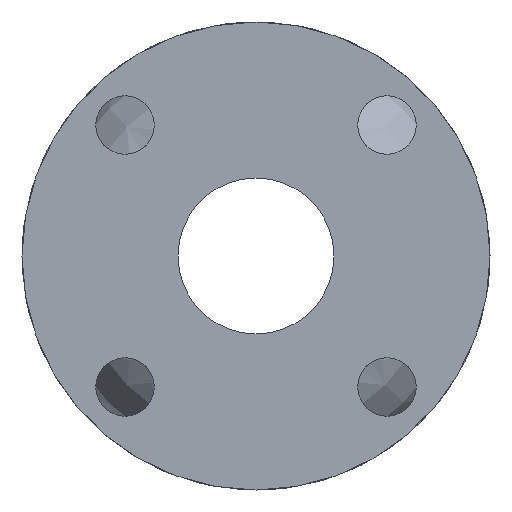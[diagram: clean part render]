
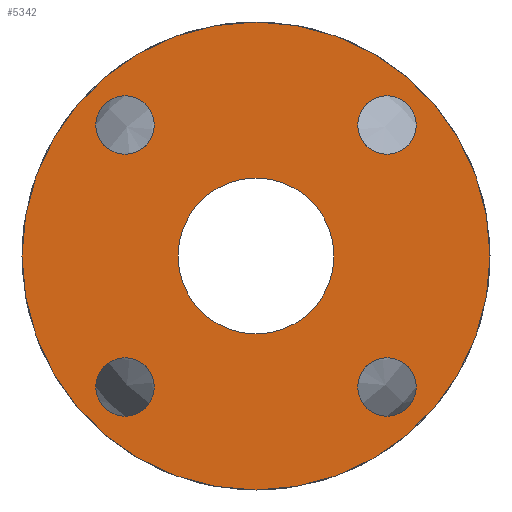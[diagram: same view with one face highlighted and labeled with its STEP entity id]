
A CAD part, left-side view. The second image highlights one B-rep face of the part: STEP entity #5342.
In plain terms, the highlighted planar face has unit normal (-1, 0, 0).
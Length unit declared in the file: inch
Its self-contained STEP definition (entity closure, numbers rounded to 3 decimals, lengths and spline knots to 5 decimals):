
#5207=CARTESIAN_POINT('',(-5.,-1.30438,-1.67938));
#5208=VERTEX_POINT('',#5207);
#5209=CARTESIAN_POINT('',(-5.,-1.67938,-1.67938));
#5210=DIRECTION('',(1.0,0.0,0.0));
#5211=DIRECTION('',(0.0,-1.0,0.0));
#5212=AXIS2_PLACEMENT_3D('',#5209,#5210,#5211);
#5213=CIRCLE('',#5212,0.375);
#5214=EDGE_CURVE('',#5208,#5208,#5213,.T.);
#5235=CARTESIAN_POINT('',(-5.,-1.67938,1.30438));
#5236=VERTEX_POINT('',#5235);
#5237=CARTESIAN_POINT('',(-5.,-1.67938,1.67938));
#5238=DIRECTION('',(1.0,0.0,0.0));
#5239=DIRECTION('',(0.0,0.0,1.0));
#5240=AXIS2_PLACEMENT_3D('',#5237,#5238,#5239);
#5241=CIRCLE('',#5240,0.375);
#5242=EDGE_CURVE('',#5236,#5236,#5241,.T.);
#5263=CARTESIAN_POINT('',(-5.,1.30438,1.67938));
#5264=VERTEX_POINT('',#5263);
#5265=CARTESIAN_POINT('',(-5.,1.67938,1.67938));
#5266=DIRECTION('',(1.0,0.0,0.0));
#5267=DIRECTION('',(0.0,1.0,0.0));
#5268=AXIS2_PLACEMENT_3D('',#5265,#5266,#5267);
#5269=CIRCLE('',#5268,0.375);
#5270=EDGE_CURVE('',#5264,#5264,#5269,.T.);
#5291=CARTESIAN_POINT('',(-5.,1.67938,-1.30438));
#5292=VERTEX_POINT('',#5291);
#5293=CARTESIAN_POINT('',(-5.,1.67938,-1.67938));
#5294=DIRECTION('',(1.0,0.0,0.0));
#5295=DIRECTION('',(0.0,0.0,-1.0));
#5296=AXIS2_PLACEMENT_3D('',#5293,#5294,#5295);
#5297=CIRCLE('',#5296,0.375);
#5298=EDGE_CURVE('',#5292,#5292,#5297,.T.);
#5303=CARTESIAN_POINT('',(-5.,2.9375,0.0));
#5304=DIRECTION('',(-1.0,0.0,0.0));
#5305=DIRECTION('',(0.0,0.0,1.0));
#5306=AXIS2_PLACEMENT_3D('',#5303,#5304,#5305);
#5307=PLANE('',#5306);
#5308=CARTESIAN_POINT('',(-5.,3.0,0.0));
#5309=VERTEX_POINT('',#5308);
#5310=CARTESIAN_POINT('',(-5.,0.0,0.0));
#5311=DIRECTION('',(1.0,0.0,0.0));
#5312=DIRECTION('',(0.0,1.0,0.0));
#5313=AXIS2_PLACEMENT_3D('',#5310,#5311,#5312);
#5314=CIRCLE('',#5313,3.0);
#5315=EDGE_CURVE('',#5309,#5309,#5314,.T.);
#5316=ORIENTED_EDGE('',*,*,#5315,.F.);
#5317=EDGE_LOOP('',(#5316));
#5318=FACE_OUTER_BOUND('',#5317,.T.);
#5319=ORIENTED_EDGE('',*,*,#5214,.T.);
#5320=EDGE_LOOP('',(#5319));
#5321=FACE_BOUND('',#5320,.T.);
#5322=ORIENTED_EDGE('',*,*,#5242,.T.);
#5323=EDGE_LOOP('',(#5322));
#5324=FACE_BOUND('',#5323,.T.);
#5325=ORIENTED_EDGE('',*,*,#5270,.T.);
#5326=EDGE_LOOP('',(#5325));
#5327=FACE_BOUND('',#5326,.T.);
#5328=ORIENTED_EDGE('',*,*,#5298,.T.);
#5329=EDGE_LOOP('',(#5328));
#5330=FACE_BOUND('',#5329,.T.);
#5331=CARTESIAN_POINT('',(-5.,1.,0.0));
#5332=VERTEX_POINT('',#5331);
#5333=CARTESIAN_POINT('',(-5.,0.0,0.0));
#5334=DIRECTION('',(1.0,0.0,0.0));
#5335=DIRECTION('',(0.0,1.0,0.0));
#5336=AXIS2_PLACEMENT_3D('',#5333,#5334,#5335);
#5337=CIRCLE('',#5336,1.);
#5338=EDGE_CURVE('',#5332,#5332,#5337,.T.);
#5339=ORIENTED_EDGE('',*,*,#5338,.T.);
#5340=EDGE_LOOP('',(#5339));
#5341=FACE_BOUND('',#5340,.T.);
#5342=ADVANCED_FACE('',(#5318,#5321,#5324,#5327,#5330,#5341),#5307,.T.);
